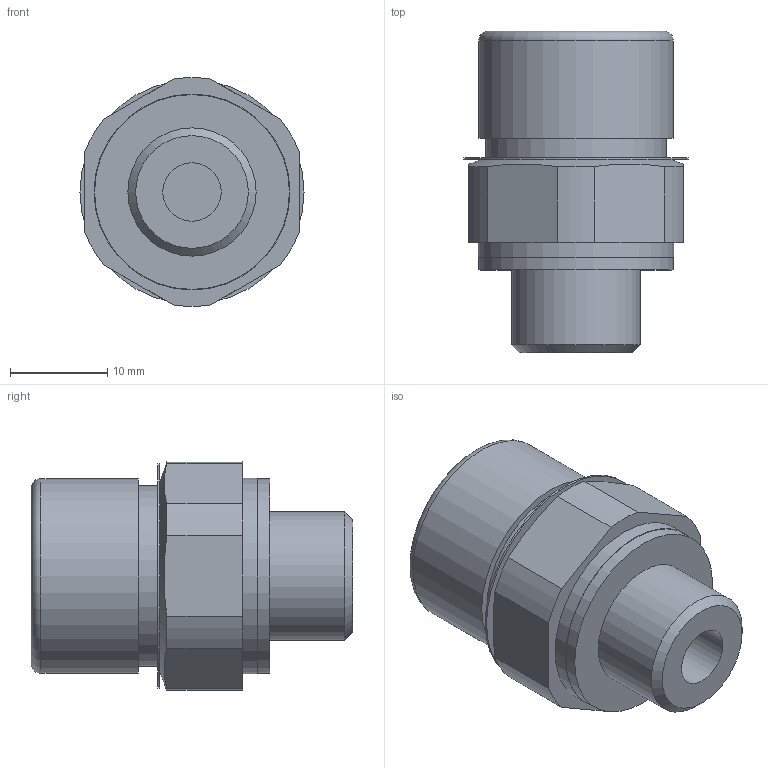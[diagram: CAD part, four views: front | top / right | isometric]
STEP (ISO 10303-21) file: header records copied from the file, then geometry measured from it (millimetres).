
FILE_DESCRIPTION( ( 'STEP AP203' ), '1' );
FILE_NAME( 'C:/Temp/Ganter_Step_05_03_2020/data/3_5/gn881/Breather valve GN 881-G1_4-200-MS-M.stp', '2020-03-12T13:42:36', ( 'License CC BY-ND 4.0' ), ( 'CADENAS' ), ' ', 'PARTsolutions', ' ' );
FILE_SCHEMA( ( 'CONFIG_CONTROL_DESIGN' ) );
Length unit declared in the file: millimetre
Products named in the file (1): _Breather valve GN 881-G1/4-200-MS-M
Bounding box: 23 x 33 x 23.46 mm (x, y, z)
Volume: 9107.2 mm3; surface area: 3309.5 mm2
Topology: 1 solids, 1 shells, 33 faces, 69 edges, 45 vertices
Faces by surface type: plane 15, cylinder 14, cone 3, torus 1
Full cylindrical faces by diameter (mm): 6 x1, 13.157 x1, 18.5 x1, 19 x1, 20 x2, 20.1 x1, 23 x1
Entity records: 870 total; most frequent: CARTESIAN_POINT 158, DIRECTION 148, ORIENTED_EDGE 110, AXIS2_PLACEMENT_3D 65, EDGE_CURVE 55, EDGE_LOOP 52, VERTEX_POINT 43, FACE_OUTER_BOUND 42
